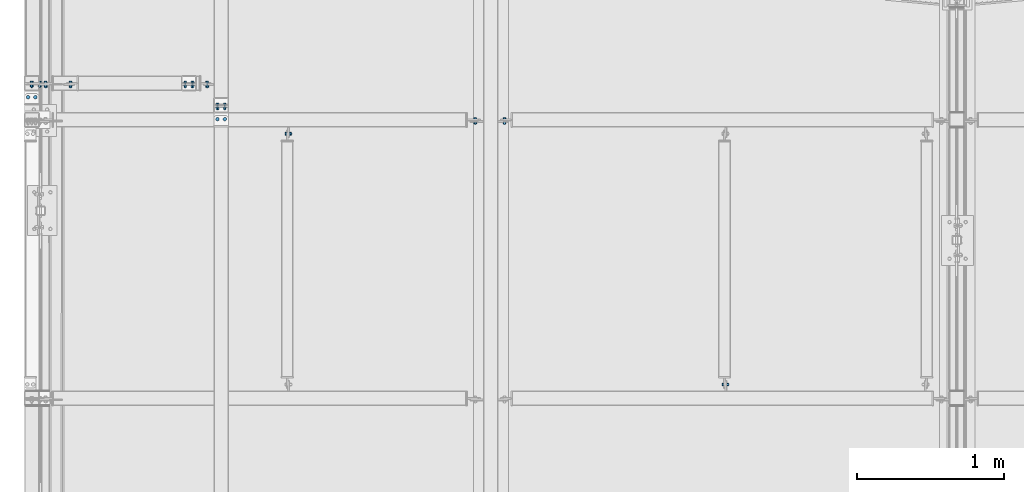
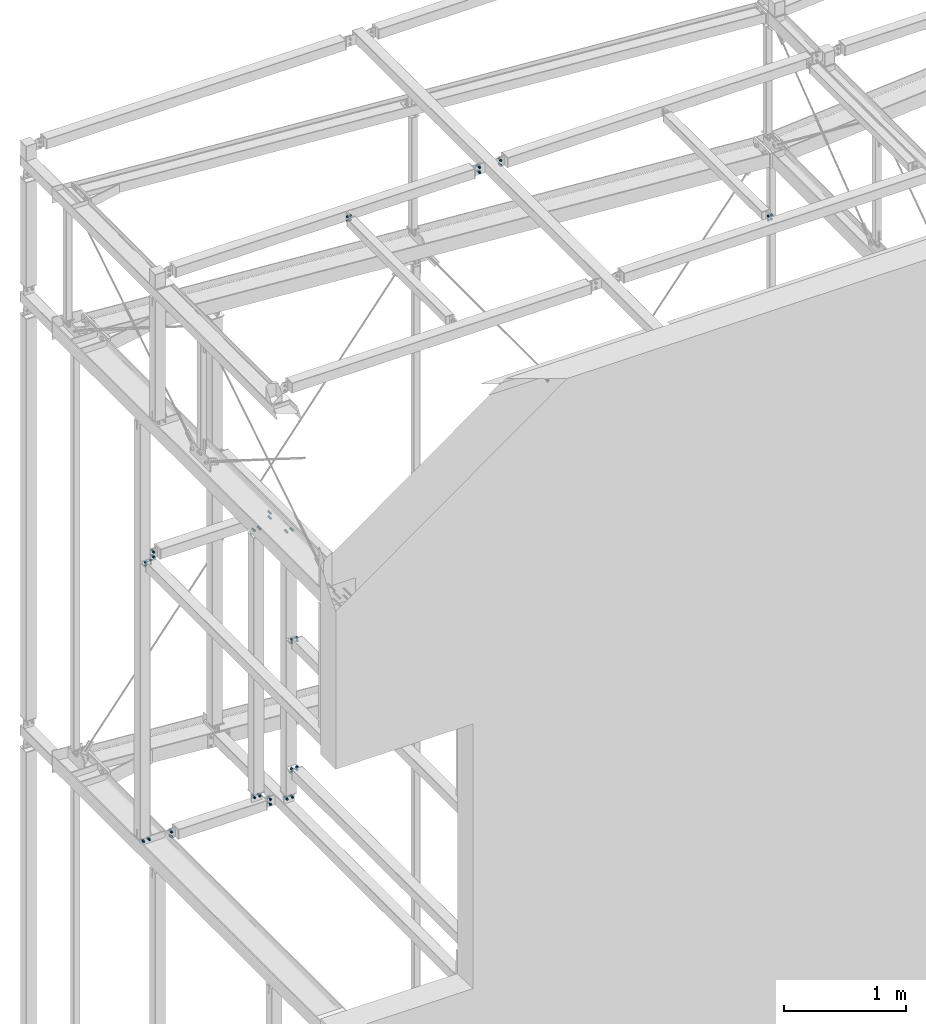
# One storey, part 236 of 271: 16 mechanical fasteners, 12 elements without a shape of their own.
"""IFC2X3 building model written with IfcOpenShell, lengths in millimetres."""

from ifc_helpers import new_model, si_unit, frame, frame_2d, origin_with_axes, origin_2d_with_axis, place, context, subcontext, project, spatial, polyline, circle_curve, parameter, trimmed, segment, composite_curve, circle, outline, extrude, source, transform, mapped, material, type_object, element, aggregate, save


model = new_model("IFC2X3")

# Units and contexts
model_context = context("Model", 3, precision=1e-05, world=origin_with_axes())
body_context = subcontext(model_context, "Body", "Model", "MODEL_VIEW")
ifc_project = project(units=[si_unit("LENGTHUNIT", "METRE", prefix="MILLI"), si_unit("AREAUNIT", "SQUARE_METRE"), si_unit("VOLUMEUNIT", "CUBIC_METRE"), si_unit("MASSUNIT", "GRAM", prefix="KILO"), si_unit("TIMEUNIT", "SECOND"), si_unit("PLANEANGLEUNIT", "RADIAN"), si_unit("SOLIDANGLEUNIT", "STERADIAN"), si_unit("THERMODYNAMICTEMPERATUREUNIT", "DEGREE_CELSIUS"), si_unit("LUMINOUSINTENSITYUNIT", "LUMEN")], contexts=[model_context])

# Site, building, storey
site_placement = place(None, origin_with_axes())
site = spatial("IfcSite", under=ifc_project, at=site_placement, Name="Undefined", CompositionType="ELEMENT")
building_placement = place(site_placement, origin_with_axes())
building = spatial("IfcBuilding", under=site, at=building_placement, Name="Undefined", CompositionType="ELEMENT")
storey_placement = place(building_placement, origin_with_axes())
storey = spatial("IfcBuildingStorey", under=building, at=storey_placement, Name="Undefined", CompositionType="ELEMENT", Elevation=0.0)

# Assembly, mechanical fasteners
assembly_1_placement = place(storey_placement, origin_with_axes())
assembly_1 = element("IfcElementAssembly", 1, at=assembly_1_placement, inside=storey, AssemblyPlace="NOTDEFINED", PredefinedType="RIGID_FRAME")
ifc_material = material(Name="Undefined")
mechanical_fastener_type = type_object("IfcMechanicalFastenerType", Name="Bolt assembly")
shared_shape_1 = source(origin_with_axes(), body_context, "Body", "SweptSolid", [
    extrude(circle(Radius=6.5, at=origin_2d_with_axis()), frame((0.0, -5.1, 0.0), z_axis=(0.0, 1.0, 0.0), x_axis=(1.0, 0.0, 0.0)), (0.0, 0.0, 1.0), 10.1),
    extrude(circle(Radius=6.5, at=origin_2d_with_axis()), frame((0.0, -14.9000000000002, 0.0), z_axis=(0.0, 1.0, 0.0), x_axis=(1.0, 0.0, 0.0)), (0.0, 0.0, 1.0), 10.0),
    extrude(outline(polyline([(10.39230484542, 0.0), (5.19615242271, 9.00000000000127), (-5.19615242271, 9.00000000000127), (-10.39230484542, 0.0), (-5.19615242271, -9.00000000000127), (5.19615242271, -9.00000000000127), (10.39230484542, 0.0)])), frame((0.0, -25.0000000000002, 0.0), z_axis=(0.0, 1.0, 0.0), x_axis=(1.0, 0.0, 0.0)), (0.0, 0.0, 1.0), 7.5),
    extrude(circle(Radius=6.0, at=origin_2d_with_axis()), frame((0.0, -17.5000000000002, 0.0), z_axis=(0.0, 1.0, 0.0), x_axis=(1.0, 0.0, 0.0)), (0.0, 0.0, 1.0), 40.0),
    extrude(circle(Radius=12.0, at=origin_2d_with_axis()), frame((0.0, -17.5000000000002, 0.0), z_axis=(0.0, 1.0, 0.0), x_axis=(1.0, 0.0, 0.0)), (0.0, 0.0, 1.0), 2.5),
    extrude(circle(Radius=12.0, at=origin_2d_with_axis()), frame((0.0, 5.00000000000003, 0.0), z_axis=(0.0, 1.0, 0.0), x_axis=(1.0, 0.0, 0.0)), (0.0, 0.0, 1.0), 2.5),
    extrude(outline(polyline([(10.96965511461, 0.0), (5.484827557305, 9.50000000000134), (-5.484827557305, 9.50000000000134), (-10.96965511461, 0.0), (-5.484827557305, -9.50000000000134), (5.484827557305, -9.50000000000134), (10.96965511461, 0.0)])), frame((0.0, 7.50000000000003, 0.0), z_axis=(0.0, 1.0, 0.0), x_axis=(1.0, 0.0, 0.0)), (0.0, 0.0, 1.0), 10.0),
])
mechanical_fastener_1_placement = place(assembly_1_placement, frame((1110.37568709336, 3039.0521198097, 14436.8499999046), z_axis=(1.0, 0.0, 0.0), x_axis=(0.0, 0.0, 1.0)))
mechanical_fastener_1 = element("IfcMechanicalFastener", 2, at=mechanical_fastener_1_placement, type_object=mechanical_fastener_type, material=ifc_material, Name="Bolt assembly", NominalDiameter=12.0, NominalLength=40.0, context=body_context, shape_type="MappedRepresentation", body=[
    mapped(shared_shape_1, transform((0.0, 0.0, -25.0))),
    mapped(shared_shape_1, transform((0.0, 0.0, 25.0))),
])
mechanical_fastener_2_placement = place(assembly_1_placement, frame((1110.37568709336, 3039.0521198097, 17099.3499999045), z_axis=(-1.0, 0.0, 1.38777878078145e-17), x_axis=(0.0, 0.0, -1.0)))
mechanical_fastener_2 = element("IfcMechanicalFastener", 3, at=mechanical_fastener_2_placement, type_object=mechanical_fastener_type, material=ifc_material, Name="Bolt assembly", NominalDiameter=12.0, NominalLength=40.0, context=body_context, shape_type="MappedRepresentation", body=[
    mapped(shared_shape_1, transform((0.0, 0.0, -25.0))),
    mapped(shared_shape_1, transform((0.0, 0.0, 25.0))),
])
aggregate(assembly_1, [mechanical_fastener_1, mechanical_fastener_2])

# Assembly, mechanical fastener
assembly_2_placement = place(storey_placement, origin_with_axes())
assembly_2 = element("IfcElementAssembly", 4, at=assembly_2_placement, inside=storey, AssemblyPlace="NOTDEFINED", PredefinedType="RIGID_FRAME")
mechanical_fastener_3_placement = place(assembly_2_placement, frame((4773.37568709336, 994.32498425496, 20164.3499999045), z_axis=(0.0, 0.0, -1.0), x_axis=(0.0, 1.0, 0.0)))
mechanical_fastener_3 = element("IfcMechanicalFastener", 5, at=mechanical_fastener_3_placement, type_object=mechanical_fastener_type, material=ifc_material, Name="Bolt assembly", NominalDiameter=12.0, NominalLength=40.0, context=body_context, shape_type="MappedRepresentation", body=[
    mapped(shared_shape_1, transform((0.0, 0.0, -20.0))),
    mapped(shared_shape_1, transform((0.0, 0.0, 20.0))),
])
aggregate(assembly_2, [mechanical_fastener_3])

assembly_3_placement = place(storey_placement, origin_with_axes())
assembly_3 = element("IfcElementAssembly", 6, at=assembly_3_placement, inside=storey, AssemblyPlace="NOTDEFINED", PredefinedType="RIGID_FRAME")
mechanical_fastener_4_placement = place(assembly_3_placement, frame((1791.37568709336, 2704.32498425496, 20164.3499999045), z_axis=(0.0, 0.0, 1.0), x_axis=(0.0, -1.0, 0.0)))
mechanical_fastener_4 = element("IfcMechanicalFastener", 7, at=mechanical_fastener_4_placement, type_object=mechanical_fastener_type, material=ifc_material, Name="Bolt assembly", NominalDiameter=12.0, NominalLength=40.0, context=body_context, shape_type="MappedRepresentation", body=[
    mapped(shared_shape_1, transform((0.0, 0.0, -20.0))),
    mapped(shared_shape_1, transform((0.0, 0.0, 20.0))),
])
aggregate(assembly_3, [mechanical_fastener_4])

assembly_4_placement = place(storey_placement, origin_with_axes())
assembly_4 = element("IfcElementAssembly", 8, at=assembly_4_placement, inside=storey, AssemblyPlace="NOTDEFINED", PredefinedType="RIGID_FRAME")
mechanical_fastener_5_placement = place(assembly_4_placement, frame((1330.37568709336, 2804.0521198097, 14774.3499999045), z_axis=(-1.0, 0.0, 1.38777878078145e-17), x_axis=(0.0, -1.0, 0.0)))
mechanical_fastener_5 = element("IfcMechanicalFastener", 9, at=mechanical_fastener_5_placement, type_object=mechanical_fastener_type, material=ifc_material, Name="Bolt assembly", NominalDiameter=12.0, NominalLength=40.0, context=body_context, shape_type="MappedRepresentation", body=[
    mapped(shared_shape_1, transform((0.0, 0.0, -25.0))),
    mapped(shared_shape_1, transform((0.0, 0.0, 25.0))),
])
aggregate(assembly_4, [mechanical_fastener_5])

assembly_5_placement = place(storey_placement, origin_with_axes())
assembly_5 = element("IfcElementAssembly", 10, at=assembly_5_placement, inside=storey, AssemblyPlace="NOTDEFINED", PredefinedType="RIGID_FRAME")
mechanical_fastener_6_placement = place(assembly_5_placement, frame((1330.37568709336, 2804.0521198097, 16054.3499999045), z_axis=(1.0, 0.0, 0.0), x_axis=(0.0, -1.0, 0.0)))
mechanical_fastener_6 = element("IfcMechanicalFastener", 11, at=mechanical_fastener_6_placement, type_object=mechanical_fastener_type, material=ifc_material, Name="Bolt assembly", NominalDiameter=12.0, NominalLength=40.0, context=body_context, shape_type="MappedRepresentation", body=[
    mapped(shared_shape_1, transform((0.0, 0.0, -25.0))),
    mapped(shared_shape_1, transform((0.0, 0.0, 25.0))),
])
aggregate(assembly_5, [mechanical_fastener_6])

assembly_6_placement = place(storey_placement, origin_with_axes())
assembly_6 = element("IfcElementAssembly", 12, at=assembly_6_placement, inside=storey, AssemblyPlace="NOTDEFINED", PredefinedType="RIGID_FRAME")
mechanical_fastener_7_placement = place(assembly_6_placement, frame((38.3756870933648, 2954.05211980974, 17184.3499999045), z_axis=(1.0, 0.0, 0.0), x_axis=(0.0, -1.0, 0.0)))
mechanical_fastener_7 = element("IfcMechanicalFastener", 13, at=mechanical_fastener_7_placement, type_object=mechanical_fastener_type, material=ifc_material, Name="Bolt assembly", NominalDiameter=12.0, NominalLength=40.0, context=body_context, shape_type="MappedRepresentation", body=[
    mapped(shared_shape_1, transform((0.0, 0.0, -25.0))),
    mapped(shared_shape_1, transform((0.0, 0.0, 25.0))),
])
aggregate(assembly_6, [mechanical_fastener_7])

assembly_7_placement = place(storey_placement, origin_with_axes())
assembly_7 = element("IfcElementAssembly", 14, at=assembly_7_placement, inside=storey, AssemblyPlace="NOTDEFINED", PredefinedType="RIGID_FRAME")
mechanical_fastener_8_placement = place(assembly_7_placement, frame((133.375687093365, 3039.05211980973, 17194.3499999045), z_axis=(0.0, 0.0, -1.0), x_axis=(1.0, 0.0, 0.0)))
mechanical_fastener_8 = element("IfcMechanicalFastener", 15, at=mechanical_fastener_8_placement, type_object=mechanical_fastener_type, material=ifc_material, Name="Bolt assembly", NominalDiameter=12.0, NominalLength=40.0, context=body_context, shape_type="MappedRepresentation", body=[
    mapped(shared_shape_1, transform((0.0, 0.0, -25.0))),
    mapped(shared_shape_1, transform((0.0, 0.0, 25.0))),
])

assembly_8_placement = place(storey_placement, origin_with_axes())
assembly_8 = element("IfcElementAssembly", 16, at=assembly_8_placement, inside=storey, AssemblyPlace="NOTDEFINED", PredefinedType="RIGID_FRAME")
mechanical_fastener_9_placement = place(assembly_8_placement, frame((303.375687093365, 3039.0521198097, 14341.8499999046), z_axis=(0.0, 0.0, -1.0), x_axis=(1.0, 0.0, 0.0)))
mechanical_fastener_9 = element("IfcMechanicalFastener", 17, at=mechanical_fastener_9_placement, type_object=mechanical_fastener_type, material=ifc_material, Name="Bolt assembly", NominalDiameter=12.0, NominalLength=40.0, context=body_context, shape_type="MappedRepresentation", body=[
    mapped(shared_shape_1, transform((0.0, 0.0, -25.0))),
    mapped(shared_shape_1, transform((0.0, 0.0, 25.0))),
])

# Mechanical fastener
mechanical_fastener_10_placement = place(assembly_7_placement, frame((1235.37568709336, 3039.05211980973, 17194.3499999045), z_axis=(0.0, 0.0, 1.0), x_axis=(-1.0, 0.0, 1.38777878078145e-17)))
mechanical_fastener_10 = element("IfcMechanicalFastener", 18, at=mechanical_fastener_10_placement, type_object=mechanical_fastener_type, material=ifc_material, Name="Bolt assembly", NominalDiameter=12.0, NominalLength=40.0, context=body_context, shape_type="MappedRepresentation", body=[
    mapped(shared_shape_1, transform((0.0, 0.0, -25.0))),
    mapped(shared_shape_1, transform((0.0, 0.0, 25.0))),
])

aggregate(assembly_7, [mechanical_fastener_8, mechanical_fastener_10])

mechanical_fastener_11_placement = place(assembly_8_placement, frame((1235.37568709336, 3039.0521198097, 14341.8499999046), z_axis=(0.0, 0.0, 1.0), x_axis=(-1.0, 0.0, 1.38777878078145e-17)))
mechanical_fastener_11 = element("IfcMechanicalFastener", 19, at=mechanical_fastener_11_placement, type_object=mechanical_fastener_type, material=ifc_material, Name="Bolt assembly", NominalDiameter=12.0, NominalLength=40.0, context=body_context, shape_type="MappedRepresentation", body=[
    mapped(shared_shape_1, transform((0.0, 0.0, -25.0))),
    mapped(shared_shape_1, transform((0.0, 0.0, 25.0))),
])

aggregate(assembly_8, [mechanical_fastener_9, mechanical_fastener_11])

# Assembly, mechanical fasteners
assembly_9_placement = place(storey_placement, origin_with_axes())
assembly_9 = element("IfcElementAssembly", 20, at=assembly_9_placement, inside=storey, AssemblyPlace="NOTDEFINED", PredefinedType="RIGID_FRAME")
mechanical_fastener_12_placement = place(assembly_9_placement, frame((1330.37568709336, 2889.0521198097, 17099.3499999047), z_axis=(-1.0, 0.0, 1.38777878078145e-17), x_axis=(0.0, 0.0, -1.0)))
mechanical_fastener_12 = element("IfcMechanicalFastener", 21, at=mechanical_fastener_12_placement, type_object=mechanical_fastener_type, material=ifc_material, Name="Bolt assembly", NominalDiameter=12.0, NominalLength=40.0, context=body_context, shape_type="MappedRepresentation", body=[
    mapped(shared_shape_1, transform((0.0, 0.0, -25.0))),
    mapped(shared_shape_1, transform((0.0, 0.0, 25.0))),
])
mechanical_fastener_13_placement = place(assembly_9_placement, frame((1330.37568709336, 2889.0521198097, 14436.8499999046), z_axis=(1.0, 0.0, 0.0), x_axis=(0.0, 0.0, 1.0)))
mechanical_fastener_13 = element("IfcMechanicalFastener", 22, at=mechanical_fastener_13_placement, type_object=mechanical_fastener_type, material=ifc_material, Name="Bolt assembly", NominalDiameter=12.0, NominalLength=40.0, context=body_context, shape_type="MappedRepresentation", body=[
    mapped(shared_shape_1, transform((0.0, 0.0, -25.0))),
    mapped(shared_shape_1, transform((0.0, 0.0, 25.0))),
])
aggregate(assembly_9, [mechanical_fastener_12, mechanical_fastener_13])

# Assembly, mechanical fastener
assembly_10_placement = place(storey_placement, origin_with_axes())
assembly_10 = element("IfcElementAssembly", 23, at=assembly_10_placement, inside=storey, AssemblyPlace="NOTDEFINED", PredefinedType="RIGID_FRAME")
mechanical_fastener_14_placement = place(assembly_10_placement, frame((3263.37568709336, 2789.32498425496, 20154.3499999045), z_axis=(0.0, 0.0, -1.0), x_axis=(1.0, 0.0, 0.0)))
mechanical_fastener_14 = element("IfcMechanicalFastener", 24, at=mechanical_fastener_14_placement, type_object=mechanical_fastener_type, material=ifc_material, Name="Bolt assembly", NominalDiameter=12.0, NominalLength=40.0, context=body_context, shape_type="MappedRepresentation", body=[
    mapped(shared_shape_1, transform((0.0, 0.0, -25.0))),
    mapped(shared_shape_1, transform((0.0, 0.0, 25.0))),
])
aggregate(assembly_10, [mechanical_fastener_14])

assembly_11_placement = place(storey_placement, origin_with_axes())
assembly_11 = element("IfcElementAssembly", 25, at=assembly_11_placement, inside=storey, AssemblyPlace="NOTDEFINED", PredefinedType="RIGID_FRAME")
shared_shape_2 = source(origin_with_axes(), body_context, "Body", "SweptSolid", [
    extrude(circle(Radius=6.5, at=origin_2d_with_axis()), frame((0.0, 7.89999999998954, 0.0), z_axis=(0.0, 1.0, 0.0), x_axis=(1.0, 0.0, 0.0)), (0.0, 0.0, 1.0), 8.1),
    extrude(circle(Radius=6.5, at=origin_2d_with_axis()), frame((0.0, 0.0999999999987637, 0.0), z_axis=(0.0, 1.0, 0.0), x_axis=(1.0, 0.0, 0.0)), (0.0, 0.0, 1.0), 8.0),
    extrude(outline(polyline([(10.39230484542, 0.0), (5.19615242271, 9.00000000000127), (-5.19615242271, 9.00000000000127), (-10.39230484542, 0.0), (-5.19615242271, -9.00000000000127), (5.19615242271, -9.00000000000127), (10.39230484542, 0.0)])), frame((0.0, -10.0, 0.0), z_axis=(0.0, 1.0, 0.0), x_axis=(1.0, 0.0, 0.0)), (0.0, 0.0, 1.0), 7.5),
    extrude(circle(Radius=6.0, at=origin_2d_with_axis()), frame((0.0, -2.50000000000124, 0.0), z_axis=(0.0, 1.0, 0.0), x_axis=(1.0, 0.0, 0.0)), (0.0, 0.0, 1.0), 40.0),
    extrude(circle(Radius=12.0, at=origin_2d_with_axis()), frame((0.0, -2.50000000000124, 0.0), z_axis=(0.0, 1.0, 0.0), x_axis=(1.0, 0.0, 0.0)), (0.0, 0.0, 1.0), 2.5),
    extrude(circle(Radius=12.0, at=origin_2d_with_axis()), frame((0.0, 16.0, 0.0), z_axis=(0.0, 1.0, 0.0), x_axis=(1.0, 0.0, 0.0)), (0.0, 0.0, 1.0), 2.5),
    extrude(outline(polyline([(10.96965511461, 0.0), (5.484827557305, 9.50000000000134), (-5.484827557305, 9.50000000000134), (-10.96965511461, 0.0), (-5.484827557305, -9.50000000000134), (5.484827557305, -9.50000000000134), (10.96965511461, 0.0)])), frame((0.0, 18.5, 0.0), z_axis=(0.0, 1.0, 0.0), x_axis=(1.0, 0.0, 0.0)), (0.0, 0.0, 1.0), 10.0),
])
mechanical_fastener_15_placement = place(assembly_11_placement, frame((38.3756870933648, 3053.05211980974, 14366.8499999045), z_axis=(0.0, 0.0, -1.0), x_axis=(1.0, 0.0, 0.0)))
mechanical_fastener_15 = element("IfcMechanicalFastener", 26, at=mechanical_fastener_15_placement, type_object=mechanical_fastener_type, material=ifc_material, Name="Bolt assembly", NominalDiameter=12.0, NominalLength=40.0, context=body_context, shape_type="MappedRepresentation", body=[
    mapped(shared_shape_2, transform((0.0, 0.0, 0.0))),
    mapped(shared_shape_2, transform((55.0, 0.0, 0.0))),
])
aggregate(assembly_11, [mechanical_fastener_15])

assembly_12_placement = place(storey_placement, origin_with_axes())
assembly_12 = element("IfcElementAssembly", 27, at=assembly_12_placement, inside=storey, AssemblyPlace="NOTDEFINED", PredefinedType="RIGID_FRAME")
shared_shape_3 = source(origin_with_axes(), body_context, "Body", "SweptSolid", [
    extrude(circle(Radius=6.5, at=origin_2d_with_axis()), frame((0.0, -5.1, 0.0), z_axis=(0.0, 1.0, 0.0), x_axis=(1.0, 0.0, 0.0)), (0.0, 0.0, 1.0), 10.1),
    extrude(outline(composite_curve([segment(polyline([(-13.5, 6.5), (13.5, 6.5)]), True, "CONTINUOUS"), segment(trimmed(circle_curve(frame_2d((13.5, 0.0), x_axis=(0.0, 1.0)), 6.5), [parameter(0.0)], [parameter(3.14159265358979)], False, "PARAMETER"), True, "CONTINUOUS"), segment(polyline([(13.5, -6.5), (-13.5, -6.5)]), True, "CONTINUOUS"), segment(trimmed(circle_curve(frame_2d((-13.5, 0.0), x_axis=(0.0, -1.0)), 6.5), [parameter(0.0)], [parameter(3.14159265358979)], False, "PARAMETER"), True, "DISCONTINUOUS")], self_intersect=False)), frame((0.0, -14.9000000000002, 0.0), z_axis=(0.0, 1.0, 0.0), x_axis=(1.0, 0.0, 0.0)), (0.0, 0.0, 1.0), 10.0),
    extrude(outline(polyline([(10.39230484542, 0.0), (5.19615242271, 9.00000000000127), (-5.19615242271, 9.00000000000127), (-10.39230484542, 0.0), (-5.19615242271, -9.00000000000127), (5.19615242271, -9.00000000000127), (10.39230484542, 0.0)])), frame((0.0, -25.0000000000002, 0.0), z_axis=(0.0, 1.0, 0.0), x_axis=(1.0, 0.0, 0.0)), (0.0, 0.0, 1.0), 7.5),
    extrude(circle(Radius=6.0, at=origin_2d_with_axis()), frame((0.0, -17.5000000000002, 0.0), z_axis=(0.0, 1.0, 0.0), x_axis=(1.0, 0.0, 0.0)), (0.0, 0.0, 1.0), 40.0),
    extrude(circle(Radius=12.0, at=origin_2d_with_axis()), frame((0.0, -17.5000000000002, 0.0), z_axis=(0.0, 1.0, 0.0), x_axis=(1.0, 0.0, 0.0)), (0.0, 0.0, 1.0), 2.5),
    extrude(circle(Radius=12.0, at=origin_2d_with_axis()), frame((0.0, 5.00000000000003, 0.0), z_axis=(0.0, 1.0, 0.0), x_axis=(1.0, 0.0, 0.0)), (0.0, 0.0, 1.0), 2.5),
    extrude(outline(polyline([(10.96965511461, 0.0), (5.484827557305, 9.50000000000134), (-5.484827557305, 9.50000000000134), (-10.96965511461, 0.0), (-5.484827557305, -9.50000000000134), (5.484827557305, -9.50000000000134), (10.96965511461, 0.0)])), frame((0.0, 7.50000000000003, 0.0), z_axis=(0.0, 1.0, 0.0), x_axis=(1.0, 0.0, 0.0)), (0.0, 0.0, 1.0), 10.0),
])
mechanical_fastener_16_placement = place(assembly_12_placement, frame((3063.37568709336, 2789.32498425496, 20154.3499999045), z_axis=(0.0, 0.0, 1.0), x_axis=(-1.0, 0.0, 1.38777878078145e-17)))
mechanical_fastener_16 = element("IfcMechanicalFastener", 28, at=mechanical_fastener_16_placement, type_object=mechanical_fastener_type, material=ifc_material, Name="Bolt assembly", NominalDiameter=12.0, NominalLength=40.0, context=body_context, shape_type="MappedRepresentation", body=[
    mapped(shared_shape_3, transform((0.0, 0.0, -25.0))),
    mapped(shared_shape_3, transform((0.0, 0.0, 25.0))),
])
aggregate(assembly_12, [mechanical_fastener_16])

save(model, "model.ifc")
